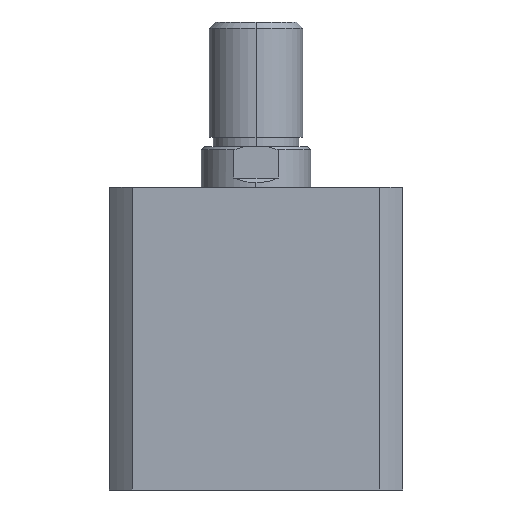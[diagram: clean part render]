
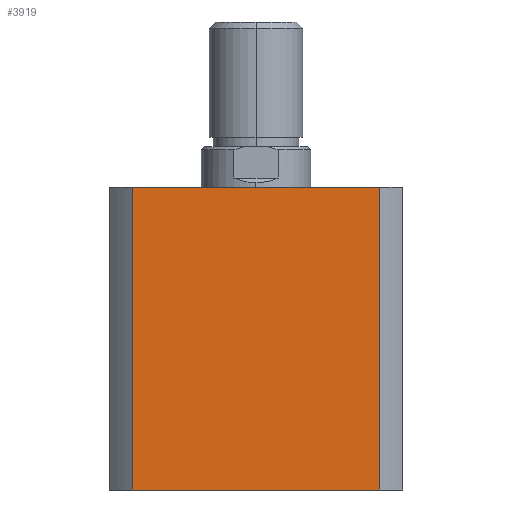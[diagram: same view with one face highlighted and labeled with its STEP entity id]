
A CAD part, left-side view. The second image highlights one B-rep face of the part: STEP entity #3919.
In plain terms, the highlighted planar face has unit normal (-1, 0, 0).
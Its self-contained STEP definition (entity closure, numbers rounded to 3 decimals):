
#254 = AXIS2_PLACEMENT_3D ( 'NONE', #1153, #1161, #1162 ) ;
#383 = EDGE_CURVE ( 'NONE', #714, #715, #1618, .T. ) ;
#416 = EDGE_CURVE ( 'NONE', #714, #734, #1660, .T. ) ;
#417 = EDGE_CURVE ( 'NONE', #734, #735, #1658, .T. ) ;
#418 = EDGE_CURVE ( 'NONE', #715, #735, #1663, .T. ) ;
#714 = VERTEX_POINT ( 'NONE', #4638 ) ;
#715 = VERTEX_POINT ( 'NONE', #4639 ) ;
#734 = VERTEX_POINT ( 'NONE', #4658 ) ;
#735 = VERTEX_POINT ( 'NONE', #4659 ) ;
#1023 = ORIENTED_EDGE ( 'NONE', *, *, #417, .T. ) ;
#1024 = ORIENTED_EDGE ( 'NONE', *, *, #418, .F. ) ;
#1025 = ORIENTED_EDGE ( 'NONE', *, *, #383, .F. ) ;
#1026 = ORIENTED_EDGE ( 'NONE', *, *, #416, .T. ) ;
#1153 = CARTESIAN_POINT ( 'NONE',  ( -47., 0., 97. ) ) ;
#1158 = PLANE ( 'NONE',  #254 ) ;
#1161 = DIRECTION ( 'NONE',  ( 1., 0., 0. ) ) ;
#1162 = DIRECTION ( 'NONE',  ( 0., 0., -1. ) ) ;
#1618 = LINE ( 'NONE', #1972, #1620 ) ;
#1620 = VECTOR ( 'NONE', #1967, 1000. ) ;
#1658 = LINE ( 'NONE', #4783, #1664 ) ;
#1660 = LINE ( 'NONE', #4781, #1662 ) ;
#1662 = VECTOR ( 'NONE', #4774, 1000. ) ;
#1663 = LINE ( 'NONE', #4789, #1666 ) ;
#1664 = VECTOR ( 'NONE', #4788, 1000. ) ;
#1666 = VECTOR ( 'NONE', #4791, 1000. ) ;
#1967 = DIRECTION ( 'NONE',  ( 0., -1., 0. ) ) ;
#1972 = CARTESIAN_POINT ( 'NONE',  ( -47., 0., 97. ) ) ;
#3769 = EDGE_LOOP ( 'NONE', ( #1023, #1024, #1025, #1026 ) ) ;
#3919 = ADVANCED_FACE ( 'NONE', ( #4127 ), #1158, .F. ) ;
#4127 = FACE_OUTER_BOUND ( 'NONE', #3769, .T. ) ;
#4638 = CARTESIAN_POINT ( 'NONE',  ( -47., 39.664, 97. ) ) ;
#4639 = CARTESIAN_POINT ( 'NONE',  ( -47., -39.664, 97. ) ) ;
#4658 = CARTESIAN_POINT ( 'NONE',  ( -47., 39.664, 0. ) ) ;
#4659 = CARTESIAN_POINT ( 'NONE',  ( -47., -39.664, 0. ) ) ;
#4774 = DIRECTION ( 'NONE',  ( 0., 0., -1. ) ) ;
#4781 = CARTESIAN_POINT ( 'NONE',  ( -47., 39.664, 97. ) ) ;
#4783 = CARTESIAN_POINT ( 'NONE',  ( -47., 0., 0. ) ) ;
#4788 = DIRECTION ( 'NONE',  ( 0., -1., 0. ) ) ;
#4789 = CARTESIAN_POINT ( 'NONE',  ( -47., -39.664, 97. ) ) ;
#4791 = DIRECTION ( 'NONE',  ( 0., 0., -1. ) ) ;
